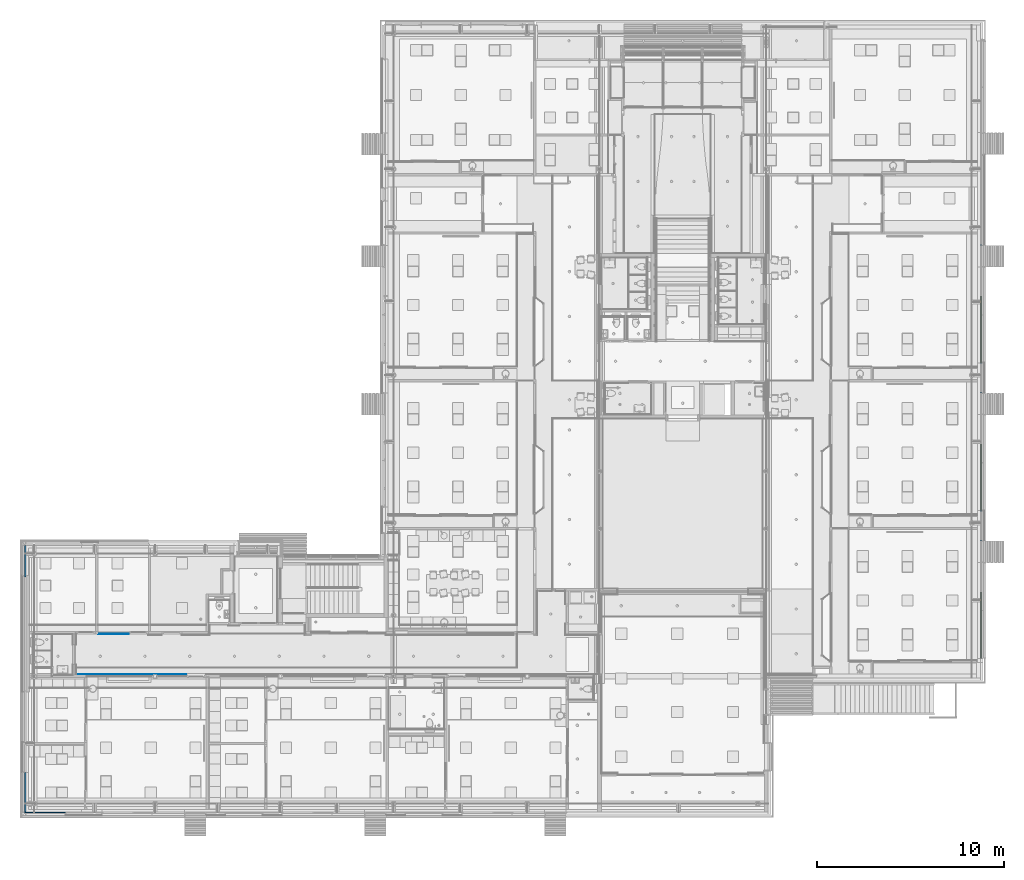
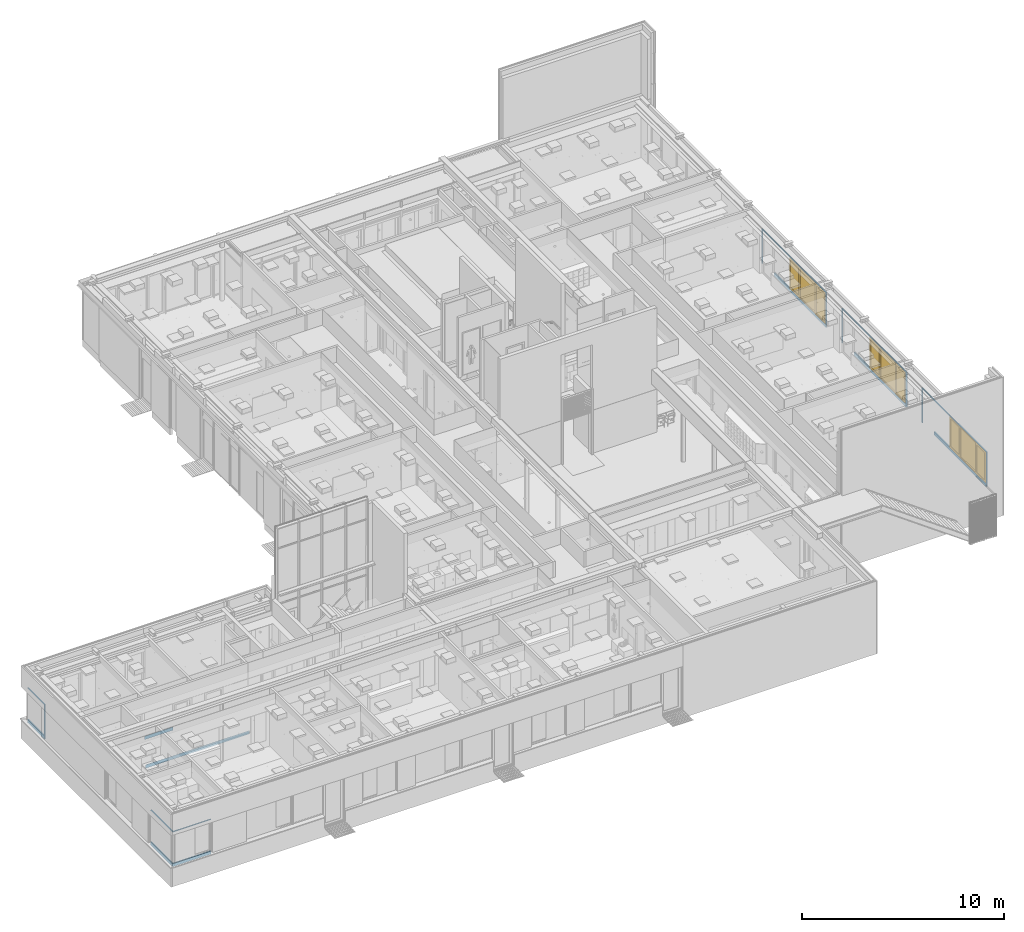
# One storey, part 5 of 347: 6 members, 3 windows, 2 beams, 9 openings.
"""IFC2X3 building model written with IfcOpenShell, lengths in millimetres."""

from ifc_helpers import new_model, entity, si_unit, converted_unit, derived_unit, money_unit, direction, frame, origin_with_axes, place, context, subcontext, project, spatial, open_shell, faceted_brep, surface_model, source, transform, mapped, material, type_object, type_shapes, element, fill, save


model = new_model("IFC2X3")

# Units and contexts
model_context = context("Model", 3, precision=0.01, world=origin_with_axes(), true_north=direction((0.0, 1.0)))
plan_context = context("Plan", 3, precision=0.01, world=origin_with_axes(), true_north=direction((0.0, 1.0)))
body_context = subcontext(model_context, "Body", "Model", "MODEL_VIEW")
ifc_project = project(units=[si_unit("LENGTHUNIT", "METRE", prefix="MILLI"), si_unit("AREAUNIT", "SQUARE_METRE"), si_unit("VOLUMEUNIT", "CUBIC_METRE"), converted_unit("PLANEANGLEUNIT", "DEGREE", entity("IfcPlaneAngleMeasure", 0.0174532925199), si_unit("PLANEANGLEUNIT", "RADIAN"), dimensions=[0, 0, 0, 0, 0, 0, 0]), money_unit("EUR"), converted_unit("TIMEUNIT", "Year", entity("IfcTimeMeasure", 31556926.0), si_unit("TIMEUNIT", "SECOND"), dimensions=[0, 0, 1, 0, 0, 0, 0]), si_unit("MASSUNIT", "GRAM", prefix="KILO"), si_unit("THERMODYNAMICTEMPERATUREUNIT", "DEGREE_CELSIUS"), si_unit("LUMINOUSINTENSITYUNIT", "LUMEN"), si_unit("ENERGYUNIT", "JOULE", prefix="MEGA"), derived_unit("THERMALCONDUCTANCEUNIT", [(si_unit("POWERUNIT", "WATT"), 1), (si_unit("LENGTHUNIT", "METRE"), -1), (si_unit("THERMODYNAMICTEMPERATUREUNIT", "KELVIN"), -1)]), derived_unit("SPECIFICHEATCAPACITYUNIT", [(si_unit("ENERGYUNIT", "JOULE"), 1), (si_unit("MASSUNIT", "GRAM", prefix="KILO"), -1), (si_unit("THERMODYNAMICTEMPERATUREUNIT", "KELVIN"), -1)]), derived_unit("MASSDENSITYUNIT", [(si_unit("MASSUNIT", "GRAM", prefix="KILO"), 1), (si_unit("VOLUMEUNIT", "CUBIC_METRE"), -1)])], contexts=[model_context, plan_context])

# Site, building, storey
site_placement = place(None, origin_with_axes())
site = spatial("IfcSite", under=ifc_project, at=site_placement, Name="Site", CompositionType="ELEMENT")
building_placement = place(site_placement, origin_with_axes())
building = spatial("IfcBuilding", under=site, at=building_placement, Name="Naam gebouw", CompositionType="ELEMENT")
storey_placement = place(building_placement, origin_with_axes())
storey = spatial("IfcBuildingStorey", under=building, at=storey_placement, Name="begane grond", CompositionType="ELEMENT", Elevation=0.0)

# Member, opening
ifc_material_1 = material(Name="31 pui/kozijn")
member_type = type_object("IfcMemberType", Name="31 pui/kozijn 62", PredefinedType="MEMBER")
member_1_placement = place(storey_placement, frame((4850.0, 19150.0, 535.00000231), z_axis=(0.0, 0.0, 1.0), x_axis=(0.0, -1.0, 0.0)))
member_1 = element("IfcMember", 1, at=member_1_placement, inside=storey, type_object=member_type, material=ifc_material_1, Name="21_31 buitenkozijn pui", ObjectType="MEMBER", context=body_context, shape_type="Brep", body=[
    faceted_brep([(1625.00000335, 0.0, 184.99999769), (1625.00000335, 0.0, 2064.99999769), (0.0, 0.0, 2064.99999769), (0.0, 0.0, 2100.0), (1687.00000335, 0.0, 2100.0), (1687.00000335, 0.0, 0.0), (0.0, 0.0, 0.0), (0.0, 0.0, 184.99999769), (1625.00000335, -62.0, 184.99999769), (1625.00000335, -62.0, 2064.99999769), (-1.49000811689e-07, -62.0, 2064.99999769), (-1.49000811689e-07, -62.0, 2100.0), (1687.00000335, -62.0, 2100.0), (1687.00000335, -62.0, 0.0), (-1.49000811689e-07, -62.0, 0.0), (-1.49000811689e-07, -62.0, 184.99999769)], [[[0, 1, 2, 3, 4, 5, 6, 7]], [[1, 0, 8, 9]], [[10, 2, 1, 9]], [[2, 10, 11, 3]], [[3, 11, 12, 4]], [[5, 4, 12, 13]], [[14, 6, 5, 13]], [[15, 7, 6, 14]], [[0, 7, 15, 8]], [[8, 15, 14, 13, 12, 11, 10, 9]]]),
])
opening_1_placement = place(member_1_placement, frame((812.500001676, 0.0, 184.99999769), z_axis=(0.0, 0.0, 1.0), x_axis=(1.0, 0.0, 0.0)))
element("IfcOpeningElement", 2, at=opening_1_placement, cuts=member_1, Name="31_merk-AH2", context=body_context, shape_type="Brep", body=[
    faceted_brep([(-874.500001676, -134.0, 0.0), (-874.500001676, -134.0, 1880.0), (-874.500001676, -61.999999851, 1880.0), (-874.500001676, -61.999999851, 0.0), (812.500001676, -134.0, 0.0), (812.500001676, -134.0, 1880.0), (812.500001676, 62.0, 1880.0), (-750.500001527, 62.0, 1880.0), (-750.500001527, 62.0, 0.0), (812.500001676, 62.0, 0.0)], [[[0, 1, 2, 3]], [[0, 4, 5, 1]], [[1, 5, 6, 7, 2]], [[7, 8, 3, 2]], [[4, 0, 3, 8, 9]], [[5, 4, 9, 6]], [[7, 6, 9, 8]]]),
])

member_2_placement = place(storey_placement, frame((4850.0, 4850.0, 535.00000231), z_axis=(0.0, 0.0, 1.0), x_axis=(1.0, 0.0, 0.0)))
member_2 = element("IfcMember", 3, at=member_2_placement, inside=storey, type_object=member_type, material=ifc_material_1, Name="21_31 buitenkozijn pui", ObjectType="MEMBER", context=body_context, shape_type="Brep", body=[
    faceted_brep([(0.0, 0.0, 184.99999769), (2138.0, 0.0, 184.99999769), (2138.0, 0.0, 0.0), (-62.0, 0.0, 0.0), (-62.0, 0.0, 184.99999769), (-62.0, -62.0, 184.99999769), (2138.0, -62.0, 184.99999769), (2138.0, -62.0, 0.0), (-62.0, -62.0, 0.0)], [[[0, 1, 2, 3, 4]], [[5, 6, 1, 0, 4]], [[1, 6, 7, 2]], [[8, 3, 2, 7]], [[5, 4, 3, 8]], [[6, 5, 8, 7]]]),
    faceted_brep([(2138.0, -62.0, 2064.99999769), (2138.0, 0.0, 2064.99999769), (2138.0, 0.0, 2100.0), (2138.0, -62.0, 2100.0), (0.0, 0.0, 2064.99999769), (-62.0, -62.0, 2064.99999769), (-62.0, 0.0, 2064.99999769), (-62.0, 0.0, 2100.0), (-62.0, -62.0, 2100.0)], [[[0, 1, 2, 3]], [[4, 1, 0, 5, 6]], [[1, 4, 6, 7, 2]], [[7, 8, 3, 2]], [[5, 0, 3, 8]], [[6, 5, 8, 7]]]),
])
opening_2_placement = place(member_2_placement, frame((1069.0, 0.0, 184.99999769), z_axis=(0.0, 0.0, 1.0), x_axis=(1.0, 0.0, 0.0)))
element("IfcOpeningElement", 4, at=opening_2_placement, cuts=member_2, Name="31_merk-AE2", context=body_context, shape_type="Brep", body=[
    faceted_brep([(1069.0, 62.0, 0.0), (1069.0, 62.0, 1880.0), (1069.0, -134.0, 1880.0), (1069.0, -134.0, 0.0), (-1007.0, 62.0, 0.0), (-1007.0, 62.0, 1880.0), (-1131.0, -62.0, 1880.0), (-1131.0, -134.0, 1880.0), (-1131.0, -134.0, 0.0), (-1131.0, -62.0, 0.0)], [[[0, 1, 2, 3]], [[0, 4, 5, 1]], [[1, 5, 6, 7, 2]], [[3, 2, 7, 8]], [[4, 0, 3, 8, 9]], [[5, 4, 9, 6]], [[9, 8, 7, 6]]]),
])

member_3_placement = place(storey_placement, frame((4850.0, 4850.0, 535.00000231), z_axis=(0.0, 0.0, 1.0), x_axis=(0.0, 1.0, 0.0)))
member_3 = element("IfcMember", 5, at=member_3_placement, inside=storey, type_object=member_type, material=ifc_material_1, Name="21_31 buitenkozijn pui", ObjectType="MEMBER", context=body_context, shape_type="Brep", body=[
    faceted_brep([(2125.00002887, 62.0, 184.99999769), (2125.00002887, 0.0, 184.99999769), (2125.00002887, 0.0, 0.0), (2125.00002887, 62.0, 0.0), (0.0, 0.0, 184.99999769), (0.0, 62.0, 184.99999769), (0.0, 0.0, 0.0), (0.0, 62.0, 0.0)], [[[0, 1, 2, 3]], [[4, 1, 0, 5]], [[1, 4, 6, 2]], [[6, 7, 3, 2]], [[5, 0, 3, 7]], [[4, 5, 7, 6]]]),
    faceted_brep([(0.0, 0.0, 2064.99999769), (2125.00002887, 0.0, 2064.99999769), (2125.00002887, 0.0, 2100.0), (0.0, 0.0, 2100.0), (2125.00002887, 62.0, 2064.99999769), (0.0, 62.0, 2064.99999769), (2125.00002887, 62.0, 2100.0), (0.0, 62.0, 2100.0)], [[[0, 1, 2, 3]], [[4, 1, 0, 5]], [[1, 4, 6, 2]], [[7, 3, 2, 6]], [[5, 0, 3, 7]], [[4, 5, 7, 6]]]),
])
opening_3_placement = place(member_3_placement, frame((1062.50001444, 0.0, 184.99999769), z_axis=(0.0, 0.0, 1.0), x_axis=(1.0, 0.0, 0.0)))
element("IfcOpeningElement", 6, at=opening_3_placement, cuts=member_3, Name="31_merk-AE1", context=body_context, shape_type="Brep", body=[
    faceted_brep([(-1124.50001444, 62.0, 1880.0), (-1124.50001444, 134.0, 1880.0), (-1124.50001444, 134.0, 0.0), (-1124.50001444, 62.0, 0.0), (-1000.50001444, -62.0, 1880.0), (1062.50001444, -62.0, 1880.0), (1062.50001444, 134.0, 1880.0), (1062.50001444, 134.0, 0.0), (1062.50001444, -62.0, 0.0), (-1000.50001444, -62.0, 0.0)], [[[0, 1, 2, 3]], [[4, 5, 6, 1, 0]], [[2, 1, 6, 7]], [[8, 9, 3, 2, 7]], [[4, 0, 3, 9]], [[9, 8, 5, 4]], [[5, 8, 7, 6]]]),
])

# Member, openings, window
member_4_placement = place(storey_placement, frame((56025.0, 19437.5, 535.00000231), z_axis=(0.0, 0.0, 1.0), x_axis=(5.01272690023e-09, -1.0, 0.0)))
member_4 = element("IfcMember", 7, at=member_4_placement, inside=storey, type_object=member_type, material=ifc_material_1, Name="21_31 buitenkozijn pui", ObjectType="MEMBER", context=body_context, shape_type="Brep", body=[
    faceted_brep([(50.0000003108, 61.9999997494, 2064.99999769), (50.0000003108, 61.9999997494, 0.0), (3.10791392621e-07, 62.0, 0.0), (3.10791392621e-07, 62.0, 2100.0), (6400.00000031, 61.9999679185, 2100.0), (6400.00000031, 61.9999679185, 0.0), (1227.00000031, 61.9999938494, 0.0), (1227.00000031, 61.9999938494, 184.99999769), (2775.00000031, 61.9999860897, 184.99999769), (6350.00000031, 61.9999681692, 184.99999769), (6350.00000031, 61.9999681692, 2064.99999769), (2775.00000031, 61.9999860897, 2064.99999769), (50.0, -2.50636844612e-07, 2064.99999769), (50.0, -2.50636844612e-07, 0.0), (0.0, 0.0, 0.0), (0.0, 0.0, 2100.0), (6400.0, -3.20814521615e-05, 2100.0), (6400.0, -3.20814521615e-05, 0.0), (1227.0, -6.15061424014e-06, 0.0), (1227.0, -6.15061424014e-06, 184.99999769), (2775.0, -1.39103164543e-05, 184.99999769), (6350.0, -3.18308153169e-05, 184.99999769), (6350.0, -3.18308153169e-05, 2064.99999769), (2775.0, -1.39103164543e-05, 2064.99999769)], [[[0, 1, 2, 3, 4, 5, 6, 7, 8, 9, 10, 11]], [[1, 0, 12, 13]], [[1, 13, 14, 2]], [[14, 15, 3, 2]], [[4, 3, 15, 16]], [[4, 16, 17, 5]], [[18, 6, 5, 17]], [[7, 6, 18, 19]], [[8, 7, 19, 20, 21, 9]], [[9, 21, 22, 10]], [[23, 12, 0, 11, 10, 22]], [[12, 23, 22, 21, 20, 19, 18, 17, 16, 15, 14, 13]]]),
])
opening_4_placement = place(member_4_placement, frame((4562.5, 0.0, 184.99999769), z_axis=(0.0, 0.0, 1.0), x_axis=(1.0, 0.0, 0.0)))
opening_4 = element("IfcOpeningElement", 8, at=opening_4_placement, cuts=member_4, Name="31_merk-AA1", context=body_context, shape_type="Brep", body=[
    faceted_brep([(1787.5, -3.18308124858e-05, 1880.0), (1787.5, -3.18308124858e-05, 0.0), (1787.50000036, 71.9999681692, 0.0), (1787.50000036, 71.9999681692, 1880.0), (-1787.5, -1.39103138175e-05, 1880.0), (-1787.5, -1.39103138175e-05, 0.0), (-1787.49999964, 71.9999860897, 0.0), (-1787.49999964, 71.9999860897, 1880.0)], [[[0, 1, 2, 3]], [[0, 4, 5, 1]], [[1, 5, 6, 2]], [[3, 2, 6, 7]], [[4, 0, 3, 7]], [[5, 4, 7, 6]]]),
    faceted_brep([(1787.50000036, 71.9999910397, 0.0), (1787.50000036, 71.9999910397, 1880.0), (1787.49999964, -72.0000089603, 1880.0), (1787.49999964, -72.0000089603, 0.0), (-1787.49999964, 72.0000089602, 0.0), (-1787.49999964, 72.0000089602, 1880.0), (-1787.50000036, -71.9999910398, 1880.0), (-1787.50000036, -71.9999910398, 0.0)], [[[0, 1, 2, 3]], [[0, 4, 5, 1]], [[1, 5, 6, 2]], [[3, 2, 6, 7]], [[4, 0, 3, 7]], [[5, 4, 7, 6]]]),
])
opening_5_placement = place(member_4_placement, frame((1412.5, 0.0, -575.00000231), z_axis=(0.0, 0.0, 1.0), x_axis=(1.0, 0.0, 0.0)))
element("IfcOpeningElement", 9, at=opening_5_placement, cuts=member_4, Name="32_merk-AA2", context=body_context, shape_type="Brep", body=[
    faceted_brep([(1362.50000067, 133.99999317, 760.000009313), (1362.50000067, 133.99999317, 2640.0), (1362.49999969, -62.0000068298, 2640.0), (1362.49999969, -62.0000068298, 760.000009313), (-185.500006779, 134.00000093, 760.000009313), (-185.500006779, 134.00000093, -7.45059994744e-07), (-1362.49999933, 134.00000683, -7.45059994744e-07), (-1362.49999933, 134.00000683, 2640.0), (-1362.50000031, -61.9999931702, 2640.0), (-1362.50000031, -61.9999931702, -7.45060006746e-07), (-185.500007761, -61.9999990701, -7.45060006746e-07), (-185.500007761, -61.9999990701, 760.000009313)], [[[0, 1, 2, 3]], [[0, 4, 5, 6, 7, 1]], [[1, 7, 8, 2]], [[3, 2, 8, 9, 10, 11]], [[4, 0, 3, 11]], [[5, 4, 11, 10]], [[6, 5, 10, 9]], [[7, 6, 9, 8]]]),
])
window_style = type_object("IfcWindowStyle", Name="Rnx horizontaal 25", ConstructionType="NOTDEFINED", OperationType="TRIPLE_PANEL_VERTICAL", ParameterTakesPrecedence=False, Sizeable=False)
shared_shape = source(origin_with_axes(), body_context, "Body", "SurfaceModel", [
    faceted_brep([(1763.5, 0.0, 1826.0), (1763.5, -62.0, 1826.0), (1748.5, -62.0, 1826.0), (1748.5, -72.0, 1826.0), (1787.5, -72.0, 1826.0), (1787.5, 0.0, 1826.0), (1763.5, 0.0, 54.0), (1763.5, -62.0, 54.0), (1748.5, -62.0, 54.0), (1748.5, -72.0, 54.0), (1787.5, -72.0, 54.0), (1787.5, 0.0, 54.0)], [[[0, 1, 2, 3, 4, 5]], [[1, 0, 6, 7]], [[8, 2, 1, 7]], [[2, 8, 9, 3]], [[4, 3, 9, 10]], [[5, 4, 10, 11]], [[6, 0, 5, 11]], [[7, 6, 11, 10, 9, 8]]]),
    faceted_brep([(-1733.5, -62.0, 1826.0), (-1748.5, -62.0, 1826.0), (-1748.5, 0.0, 1826.0), (-1787.5, 0.0, 1826.0), (-1787.5, -72.0, 1826.0), (-1733.5, -72.0, 1826.0), (-1733.5, -62.0, 54.0), (-1748.5, -62.0, 54.0), (-1748.5, 0.0, 54.0), (-1787.5, 0.0, 54.0), (-1787.5, -72.0, 54.0), (-1733.5, -72.0, 54.0)], [[[0, 1, 2, 3, 4, 5]], [[1, 0, 6, 7]], [[8, 2, 1, 7]], [[2, 8, 9, 3]], [[9, 10, 4, 3]], [[10, 11, 5, 4]], [[6, 0, 5, 11]], [[7, 6, 11, 10, 9, 8]]]),
    faceted_brep([(1763.5, 0.0, 1826.0), (1763.5, 0.0, 1841.0), (799.5, 0.0, 1841.0), (799.5, 0.0, 1826.0), (760.5, 0.0, 1826.0), (-760.5, 0.0, 1826.0), (-799.5, 0.0, 1826.0), (-799.5, 0.0, 1841.0), (-1748.5, 0.0, 1841.0), (-1748.5, 0.0, 1826.0), (-1787.5, 0.0, 1826.0), (-1787.5, 0.0, 1880.0), (1787.5, 0.0, 1880.0), (1787.5, 0.0, 1826.0), (1763.5, -62.0, 1826.0), (1763.5, -62.0, 1841.0), (799.5, -62.0, 1841.0), (799.5, -62.0, 1826.0), (814.5, -62.0, 1826.0), (814.5, -72.0, 1826.0), (760.5, -72.0, 1826.0), (-760.5, -72.0, 1826.0), (-799.5, -62.0, 1826.0), (-814.5, -72.0, 1826.0), (-814.5, -62.0, 1826.0), (-799.5, -62.0, 1841.0), (-1748.5, -62.0, 1841.0), (-1748.5, -62.0, 1826.0), (-1733.5, -62.0, 1826.0), (-1733.5, -72.0, 1826.0), (-1787.5, -72.0, 1826.0), (-1787.5, -72.0, 1880.0), (1787.5, -72.0, 1880.0), (1787.5, -72.0, 1826.0), (1748.5, -72.0, 1826.0), (1748.5, -62.0, 1826.0)], [[[0, 1, 2, 3, 4, 5, 6, 7, 8, 9, 10, 11, 12, 13]], [[1, 0, 14, 15]], [[2, 1, 15, 16]], [[3, 2, 16, 17]], [[17, 18, 19, 20, 4, 3]], [[4, 20, 21, 5]], [[22, 6, 5, 21, 23, 24]], [[7, 6, 22, 25]], [[8, 7, 25, 26]], [[9, 8, 26, 27]], [[27, 28, 29, 30, 10, 9]], [[10, 30, 31, 11]], [[11, 31, 32, 12]], [[12, 32, 33, 13]], [[14, 0, 13, 33, 34, 35]], [[18, 17, 16, 15, 14, 35]], [[18, 35, 34, 19]], [[30, 29, 23, 21, 20, 19, 34, 33, 32, 31]], [[28, 24, 23, 29]], [[28, 27, 26, 25, 22, 24]]]),
    faceted_brep([(814.5, -62.0, 54.0), (799.5, -62.0, 54.0), (799.5, 0.0, 54.0), (760.5, 0.0, 54.0), (760.5, -72.0, 54.0), (814.5, -72.0, 54.0), (1748.5, -62.0, 54.0), (1763.5, -62.0, 54.0), (1763.5, -62.0, 39.0), (799.5, -62.0, 39.0), (799.5, 0.0, 39.0), (1763.5, 0.0, 39.0), (1763.5, 0.0, 54.0), (1787.5, 0.0, 54.0), (1787.5, 0.0, 0.0), (-1787.5, 0.0, 0.0), (-1787.5, 0.0, 54.0), (-1748.5, 0.0, 54.0), (-1748.5, 0.0, 39.0), (-799.5, 0.0, 39.0), (-799.5, 0.0, 54.0), (-760.5, 0.0, 54.0), (-760.5, -72.0, 54.0), (-814.5, -72.0, 54.0), (-1733.5, -72.0, 54.0), (-1787.5, -72.0, 54.0), (-1787.5, -72.0, 0.0), (1787.5, -72.0, 0.0), (1787.5, -72.0, 54.0), (1748.5, -72.0, 54.0), (-1733.5, -62.0, 54.0), (-1748.5, -62.0, 54.0), (-1748.5, -62.0, 39.0), (-799.5, -62.0, 39.0), (-799.5, -62.0, 54.0), (-814.5, -62.0, 54.0)], [[[0, 1, 2, 3, 4, 5]], [[1, 0, 6, 7, 8, 9]], [[10, 2, 1, 9]], [[11, 12, 13, 14, 15, 16, 17, 18, 19, 20, 21, 3, 2, 10]], [[21, 22, 4, 3]], [[22, 23, 24, 25, 26, 27, 28, 29, 5, 4]], [[6, 0, 5, 29]], [[7, 6, 29, 28, 13, 12]], [[7, 12, 11, 8]], [[11, 10, 9, 8]], [[13, 28, 27, 14]], [[14, 27, 26, 15]], [[15, 26, 25, 16]], [[30, 31, 17, 16, 25, 24]], [[18, 17, 31, 32]], [[19, 18, 32, 33]], [[34, 20, 19, 33]], [[34, 35, 23, 22, 21, 20]], [[35, 30, 24, 23]], [[31, 30, 35, 34, 33, 32]]]),
    faceted_brep([(814.5, -62.0, 1826.0), (799.5, -62.0, 1826.0), (799.5, 0.0, 1826.0), (760.5, 0.0, 1826.0), (760.5, -72.0, 1826.0), (814.5, -72.0, 1826.0), (814.5, -62.0, 54.0), (799.5, -62.0, 54.0), (799.5, 0.0, 54.0), (760.5, 0.0, 54.0), (760.5, -72.0, 54.0), (814.5, -72.0, 54.0)], [[[0, 1, 2, 3, 4, 5]], [[1, 0, 6, 7]], [[8, 2, 1, 7]], [[2, 8, 9, 3]], [[9, 10, 4, 3]], [[4, 10, 11, 5]], [[6, 0, 5, 11]], [[7, 6, 11, 10, 9, 8]]]),
    faceted_brep([(-799.5, 0.0, 1826.0), (-799.5, -62.0, 1826.0), (-814.5, -62.0, 1826.0), (-814.5, -72.0, 1826.0), (-760.5, -72.0, 1826.0), (-760.5, 0.0, 1826.0), (-799.5, 0.0, 54.0), (-799.5, -62.0, 54.0), (-814.5, -62.0, 54.0), (-814.5, -72.0, 54.0), (-760.5, -72.0, 54.0), (-760.5, 0.0, 54.0)], [[[0, 1, 2, 3, 4, 5]], [[1, 0, 6, 7]], [[8, 2, 1, 7]], [[2, 8, 9, 3]], [[3, 9, 10, 4]], [[5, 4, 10, 11]], [[6, 0, 5, 11]], [[7, 6, 11, 10, 9, 8]]]),
    faceted_brep([(1695.5, -62.0, 1773.0), (1763.5, -62.0, 1773.0), (1763.5, 0.0, 1773.0), (1695.5, 0.0, 1773.0), (1695.5, -62.0, 107.0), (1763.5, -62.0, 107.0), (1763.5, 0.0, 107.0), (1695.5, 0.0, 107.0)], [[[0, 1, 2, 3]], [[0, 4, 5, 1]], [[1, 5, 6, 2]], [[3, 2, 6, 7]], [[4, 0, 3, 7]], [[5, 4, 7, 6]]]),
    faceted_brep([(867.5, -62.0, 107.0), (799.5, -62.0, 107.0), (799.5, 0.0, 107.0), (867.5, 0.0, 107.0), (867.5, -62.0, 1773.0), (799.5, -62.0, 1773.0), (799.5, 0.0, 1773.0), (867.5, 0.0, 1773.0)], [[[0, 1, 2, 3]], [[0, 4, 5, 1]], [[1, 5, 6, 2]], [[3, 2, 6, 7]], [[4, 0, 3, 7]], [[5, 4, 7, 6]]]),
    faceted_brep([(799.5, -62.0, 39.0), (799.5, -62.0, 107.0), (799.5, 0.0, 107.0), (799.5, 0.0, 39.0), (1763.5, -62.0, 39.0), (1763.5, -62.0, 107.0), (1695.5, -62.0, 107.0), (867.5, -62.0, 107.0), (867.5, 0.0, 107.0), (1695.5, 0.0, 107.0), (1763.5, 0.0, 107.0), (1763.5, 0.0, 39.0)], [[[0, 1, 2, 3]], [[0, 4, 5, 6, 7, 1]], [[1, 7, 8, 2]], [[3, 2, 8, 9, 10, 11]], [[4, 0, 3, 11]], [[5, 4, 11, 10]], [[6, 5, 10, 9]], [[7, 6, 9, 8]]]),
    faceted_brep([(1763.5, -62.0, 1841.0), (1763.5, -62.0, 1773.0), (1763.5, 0.0, 1773.0), (1763.5, 0.0, 1841.0), (799.5, -62.0, 1841.0), (799.5, -62.0, 1773.0), (867.5, -62.0, 1773.0), (1695.5, -62.0, 1773.0), (1695.5, 0.0, 1773.0), (867.5, 0.0, 1773.0), (799.5, 0.0, 1773.0), (799.5, 0.0, 1841.0)], [[[0, 1, 2, 3]], [[0, 4, 5, 6, 7, 1]], [[1, 7, 8, 2]], [[3, 2, 8, 9, 10, 11]], [[4, 0, 3, 11]], [[5, 4, 11, 10]], [[6, 5, 10, 9]], [[7, 6, 9, 8]]]),
    surface_model("IfcShellBasedSurfaceModel", [(1695.5, -41.0, 107.0), (1695.5, -41.0, 1773.0), (867.5, -41.0, 1773.0), (867.5, -41.0, 107.0)], [open_shell([[[0, 1, 2, 3]]])]),
    surface_model("IfcShellBasedSurfaceModel", [(1695.5, -21.0, 107.0), (867.5, -21.0, 107.0), (867.5, -21.0, 1773.0), (1695.5, -21.0, 1773.0)], [open_shell([[[0, 1, 2, 3]]])]),
    surface_model("IfcShellBasedSurfaceModel", [(760.5, -72.0, 54.0), (760.5, -72.0, 1826.0), (-760.5, -72.0, 1826.0), (-760.5, -72.0, 54.0)], [open_shell([[[0, 1, 2, 3]]])]),
    surface_model("IfcShellBasedSurfaceModel", [(760.5, -52.0, 54.0), (-760.5, -52.0, 54.0), (-760.5, -52.0, 1826.0), (760.5, -52.0, 1826.0)], [open_shell([[[0, 1, 2, 3]]])]),
    faceted_brep([(-867.5, -62.0, 1773.0), (-799.5, -62.0, 1773.0), (-799.5, 0.0, 1773.0), (-867.5, 0.0, 1773.0), (-867.5, -62.0, 107.0), (-799.5, -62.0, 107.0), (-799.5, 0.0, 107.0), (-867.5, 0.0, 107.0)], [[[0, 1, 2, 3]], [[0, 4, 5, 1]], [[1, 5, 6, 2]], [[3, 2, 6, 7]], [[4, 0, 3, 7]], [[5, 4, 7, 6]]]),
    faceted_brep([(-1680.5, -62.0, 107.0), (-1748.5, -62.0, 107.0), (-1748.5, 0.0, 107.0), (-1680.5, 0.0, 107.0), (-1680.5, -62.0, 1773.0), (-1748.5, -62.0, 1773.0), (-1748.5, 0.0, 1773.0), (-1680.5, 0.0, 1773.0)], [[[0, 1, 2, 3]], [[0, 4, 5, 1]], [[1, 5, 6, 2]], [[3, 2, 6, 7]], [[4, 0, 3, 7]], [[5, 4, 7, 6]]]),
    faceted_brep([(-1748.5, -62.0, 39.0), (-1748.5, -62.0, 107.0), (-1748.5, 0.0, 107.0), (-1748.5, 0.0, 39.0), (-799.5, -62.0, 39.0), (-799.5, -62.0, 107.0), (-867.5, -62.0, 107.0), (-1680.5, -62.0, 107.0), (-1680.5, 0.0, 107.0), (-867.5, 0.0, 107.0), (-799.5, 0.0, 107.0), (-799.5, 0.0, 39.0)], [[[0, 1, 2, 3]], [[0, 4, 5, 6, 7, 1]], [[1, 7, 8, 2]], [[3, 2, 8, 9, 10, 11]], [[4, 0, 3, 11]], [[5, 4, 11, 10]], [[6, 5, 10, 9]], [[7, 6, 9, 8]]]),
    faceted_brep([(-799.5, -62.0, 1841.0), (-799.5, -62.0, 1773.0), (-799.5, 0.0, 1773.0), (-799.5, 0.0, 1841.0), (-1748.5, -62.0, 1841.0), (-1748.5, -62.0, 1773.0), (-1680.5, -62.0, 1773.0), (-867.5, -62.0, 1773.0), (-867.5, 0.0, 1773.0), (-1680.5, 0.0, 1773.0), (-1748.5, 0.0, 1773.0), (-1748.5, 0.0, 1841.0)], [[[0, 1, 2, 3]], [[0, 4, 5, 6, 7, 1]], [[1, 7, 8, 2]], [[3, 2, 8, 9, 10, 11]], [[4, 0, 3, 11]], [[5, 4, 11, 10]], [[6, 5, 10, 9]], [[7, 6, 9, 8]]]),
    surface_model("IfcShellBasedSurfaceModel", [(-867.5, -41.0, 107.0), (-867.5, -41.0, 1773.0), (-1680.5, -41.0, 1773.0), (-1680.5, -41.0, 107.0)], [open_shell([[[0, 1, 2, 3]]])]),
    surface_model("IfcShellBasedSurfaceModel", [(-867.5, -21.0, 107.0), (-1680.5, -21.0, 107.0), (-1680.5, -21.0, 1773.0), (-867.5, -21.0, 1773.0)], [open_shell([[[0, 1, 2, 3]]])]),
])
type_shapes(window_style, [shared_shape])
window_1_placement = place(opening_4_placement, frame((1787.5, 0.0, 0.0), z_axis=(0.0, 0.0, 1.0), x_axis=(-1.0, 0.0, 0.0)))
window_1 = element("IfcWindow", 10, at=window_1_placement, inside=storey, type_object=window_style, Name="31_merk-AA1", ObjectType="WINDOW", OverallHeight=1880.0, OverallWidth=3575.0, context=body_context, shape_type="MappedRepresentation", body=[
    mapped(shared_shape, transform((1787.5, 2.28705658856e-05, 0.0))),
])
fill(opening_4, window_1)

member_5_placement = place(storey_placement, frame((56025.0, 35287.5, 535.00000231), z_axis=(0.0, 0.0, 1.0), x_axis=(-2.13369877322e-09, -1.0, 0.0)))
member_5 = element("IfcMember", 11, at=member_5_placement, inside=storey, type_object=member_type, material=ifc_material_1, Name="21_31 buitenkozijn pui", ObjectType="MEMBER", context=body_context, shape_type="Brep", body=[
    faceted_brep([(49.9999998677, 62.0000001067, 2064.99999769), (49.9999998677, 62.0000001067, 0.0), (-1.32288846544e-07, 62.0, 0.0), (-1.32288846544e-07, 62.0, 2100.0), (6399.99999987, 62.0000136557, 2100.0), (6399.99999987, 62.0000136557, 0.0), (1226.99999987, 62.000002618, 0.0), (1226.99999987, 62.000002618, 184.99999769), (2774.99999987, 62.000005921, 184.99999769), (6349.99999987, 62.000013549, 184.99999769), (6349.99999987, 62.000013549, 2064.99999769), (2774.99999987, 62.000005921, 2064.99999769), (50.0, 1.06687991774e-07, 2064.99999769), (50.0, 1.06687991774e-07, 0.0), (0.0, 0.0, 0.0), (0.0, 0.0, 2100.0), (6400.0, 1.36556721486e-05, 2100.0), (6400.0, 1.36556721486e-05, 0.0), (1227.0, 2.61805155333e-06, 0.0), (1227.0, 2.61805155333e-06, 184.99999769), (2775.0, 5.92101656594e-06, 184.99999769), (6350.0, 1.35489841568e-05, 184.99999769), (6350.0, 1.35489841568e-05, 2064.99999769), (2775.0, 5.92101656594e-06, 2064.99999769)], [[[0, 1, 2, 3, 4, 5, 6, 7, 8, 9, 10, 11]], [[1, 0, 12, 13]], [[1, 13, 14, 2]], [[14, 15, 3, 2]], [[4, 3, 15, 16]], [[4, 16, 17, 5]], [[18, 6, 5, 17]], [[7, 6, 18, 19]], [[8, 7, 19, 20, 21, 9]], [[9, 21, 22, 10]], [[23, 12, 0, 11, 10, 22]], [[12, 23, 22, 21, 20, 19, 18, 17, 16, 15, 14, 13]]]),
])
opening_6_placement = place(member_5_placement, frame((4562.5, 0.0, 184.99999769), z_axis=(0.0, 0.0, 1.0), x_axis=(1.0, 0.0, 0.0)))
opening_6 = element("IfcOpeningElement", 12, at=opening_6_placement, cuts=member_5, Name="31_merk-AA1", context=body_context, shape_type="Brep", body=[
    faceted_brep([(1787.5, 1.35489932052e-05, 1880.0), (1787.5, 1.35489932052e-05, 0.0), (1787.49999985, 72.000013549, 0.0), (1787.49999985, 72.000013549, 1880.0), (-1787.5, 5.92102009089e-06, 1880.0), (-1787.5, 5.92102009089e-06, 0.0), (-1787.50000015, 72.000005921, 0.0), (-1787.50000015, 72.000005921, 1880.0)], [[[0, 1, 2, 3]], [[0, 4, 5, 1]], [[1, 5, 6, 2]], [[3, 2, 6, 7]], [[4, 0, 3, 7]], [[5, 4, 7, 6]]]),
    faceted_brep([(1787.49999985, 72.000003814, 0.0), (1787.49999985, 72.000003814, 1880.0), (1787.50000015, -71.999996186, 1880.0), (1787.50000015, -71.999996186, 0.0), (-1787.50000015, 71.999996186, 0.0), (-1787.50000015, 71.999996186, 1880.0), (-1787.49999985, -72.000003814, 1880.0), (-1787.49999985, -72.000003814, 0.0)], [[[0, 1, 2, 3]], [[0, 4, 5, 1]], [[1, 5, 6, 2]], [[3, 2, 6, 7]], [[4, 0, 3, 7]], [[5, 4, 7, 6]]]),
])
opening_7_placement = place(member_5_placement, frame((1412.5, 0.0, -575.00000231), z_axis=(0.0, 0.0, 1.0), x_axis=(1.0, 0.0, 0.0)))
element("IfcOpeningElement", 13, at=opening_7_placement, cuts=member_5, Name="32_merk-AA2", context=body_context, shape_type="Brep", body=[
    faceted_brep([(1362.49999971, 134.000002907, 760.000009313), (1362.49999971, 134.000002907, 2640.0), (1362.50000013, -61.9999970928, 2640.0), (1362.50000013, -61.9999970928, 760.000009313), (-185.500007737, 133.999999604, 760.000009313), (-185.500007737, 133.999999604, -7.45052889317e-07), (-1362.50000029, 133.999997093, -7.45052889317e-07), (-1362.50000029, 133.999997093, 2640.0), (-1362.49999987, -62.0000029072, 2640.0), (-1362.49999987, -62.0000029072, -7.45052901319e-07), (-185.500007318, -62.0000003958, -7.45052901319e-07), (-185.500007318, -62.0000003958, 760.000009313)], [[[0, 1, 2, 3]], [[0, 4, 5, 6, 7, 1]], [[1, 7, 8, 2]], [[3, 2, 8, 9, 10, 11]], [[4, 0, 3, 11]], [[5, 4, 11, 10]], [[6, 5, 10, 9]], [[7, 6, 9, 8]]]),
])
window_2_placement = place(opening_6_placement, frame((1787.5, 0.0, 0.0), z_axis=(0.0, 0.0, 1.0), x_axis=(-1.0, 0.0, 0.0)))
window_2 = element("IfcWindow", 14, at=window_2_placement, inside=storey, type_object=window_style, Name="31_merk-AA1", ObjectType="WINDOW", OverallHeight=1880.0, OverallWidth=3575.0, context=body_context, shape_type="MappedRepresentation", body=[
    mapped(shared_shape, transform((1787.5, -9.73501101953e-06, 0.0))),
])
fill(opening_6, window_2)

member_6_placement = place(storey_placement, frame((56025.0, 27362.5, 535.00000231), z_axis=(0.0, 0.0, 1.0), x_axis=(0.0, -1.0, 0.0)))
member_6 = element("IfcMember", 15, at=member_6_placement, inside=storey, type_object=member_type, material=ifc_material_1, Name="21_31 buitenkozijn pui", ObjectType="MEMBER", context=body_context, shape_type="Brep", body=[
    faceted_brep([(50.0, 62.0, 2064.99999769), (50.0, 62.0, 0.0), (0.0, 62.0, 0.0), (0.0, 62.0, 2100.0), (6400.0, 62.0, 2100.0), (6400.0, 62.0, 0.0), (1227.0, 62.0, 0.0), (1227.0, 62.0, 184.99999769), (2775.0, 62.0, 184.99999769), (6350.0, 62.0, 184.99999769), (6350.0, 62.0, 2064.99999769), (2775.0, 62.0, 2064.99999769), (50.0, 0.0, 2064.99999769), (50.0, 0.0, 0.0), (0.0, 0.0, 0.0), (0.0, 0.0, 2100.0), (6400.0, 0.0, 2100.0), (6400.0, 0.0, 0.0), (1227.0, 0.0, 0.0), (1227.0, 0.0, 184.99999769), (2775.0, 0.0, 184.99999769), (6350.0, 0.0, 184.99999769), (6350.0, 0.0, 2064.99999769), (2775.0, 0.0, 2064.99999769)], [[[0, 1, 2, 3, 4, 5, 6, 7, 8, 9, 10, 11]], [[1, 0, 12, 13]], [[1, 13, 14, 2]], [[14, 15, 3, 2]], [[4, 3, 15, 16]], [[4, 16, 17, 5]], [[18, 6, 5, 17]], [[7, 6, 18, 19]], [[8, 7, 19, 20, 21, 9]], [[9, 21, 22, 10]], [[23, 12, 0, 11, 10, 22]], [[12, 23, 22, 21, 20, 19, 18, 17, 16, 15, 14, 13]]]),
])
opening_8_placement = place(member_6_placement, frame((4562.5, 0.0, 184.99999769), z_axis=(0.0, 0.0, 1.0), x_axis=(1.0, 0.0, 0.0)))
opening_8 = element("IfcOpeningElement", 16, at=opening_8_placement, cuts=member_6, Name="31_merk-AA1", context=body_context, shape_type="Brep", body=[
    faceted_brep([(1787.5, 0.0, 1880.0), (1787.5, 0.0, 0.0), (1787.5, 72.0, 0.0), (1787.5, 72.0, 1880.0), (-1787.5, 0.0, 1880.0), (-1787.5, 0.0, 0.0), (-1787.5, 72.0, 0.0), (-1787.5, 72.0, 1880.0)], [[[0, 1, 2, 3]], [[0, 4, 5, 1]], [[1, 5, 6, 2]], [[3, 2, 6, 7]], [[4, 0, 3, 7]], [[5, 4, 7, 6]]]),
    faceted_brep([(1787.5, 72.0, 0.0), (1787.5, 72.0, 1880.0), (1787.5, -72.0, 1880.0), (1787.5, -72.0, 0.0), (-1787.5, 72.0, 0.0), (-1787.5, 72.0, 1880.0), (-1787.5, -72.0, 1880.0), (-1787.5, -72.0, 0.0)], [[[0, 1, 2, 3]], [[0, 4, 5, 1]], [[1, 5, 6, 2]], [[3, 2, 6, 7]], [[4, 0, 3, 7]], [[5, 4, 7, 6]]]),
])
opening_9_placement = place(member_6_placement, frame((1412.5, 0.0, -575.00000231), z_axis=(0.0, 0.0, 1.0), x_axis=(1.0, 0.0, 0.0)))
element("IfcOpeningElement", 17, at=opening_9_placement, cuts=member_6, Name="32_merk-AA2", context=body_context, shape_type="Brep", body=[
    faceted_brep([(1362.5, 134.0, 760.000009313), (1362.5, 134.0, 2640.0), (1362.5, -62.0, 2640.0), (1362.5, -62.0, 760.000009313), (-185.500007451, 134.0, 760.000009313), (-185.500007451, 134.0, -7.45059994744e-07), (-1362.5, 134.0, -7.45059994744e-07), (-1362.5, 134.0, 2640.0), (-1362.5, -62.0, 2640.0), (-1362.5, -62.0, -7.45060006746e-07), (-185.500007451, -62.0, -7.45060006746e-07), (-185.500007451, -62.0, 760.000009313)], [[[0, 1, 2, 3]], [[0, 4, 5, 6, 7, 1]], [[1, 7, 8, 2]], [[3, 2, 8, 9, 10, 11]], [[4, 0, 3, 11]], [[5, 4, 11, 10]], [[6, 5, 10, 9]], [[7, 6, 9, 8]]]),
])
window_3_placement = place(opening_8_placement, frame((1787.5, 0.0, 0.0), z_axis=(0.0, 0.0, 1.0), x_axis=(-1.0, 0.0, 0.0)))
window_3 = element("IfcWindow", 18, at=window_3_placement, inside=storey, type_object=window_style, Name="31_merk-AA1", ObjectType="WINDOW", OverallHeight=1880.0, OverallWidth=3575.0, context=body_context, shape_type="MappedRepresentation", body=[
    mapped(shared_shape, transform((1787.5, 0.0, 0.0))),
])
fill(opening_8, window_3)

# Beams
ifc_material_2 = material(Name="Glas geleiding strook")
beam_type = type_object("IfcBeamType", Name="42 geleiding strook 20 x 200", PredefinedType="BEAM")
beam_1_placement = place(storey_placement, frame((13461.0, 12187.5, 0.0), z_axis=(0.0, 0.0, 1.0), x_axis=(0.0, 1.0, 0.0)))
element("IfcBeam", 19, at=beam_1_placement, inside=storey, type_object=beam_type, material=ifc_material_2, Name="28_Balk-x", ObjectType="BEAM", context=body_context, shape_type="Brep", body=[
    faceted_brep([(40.0, 5921.0, 1200.0), (40.0, 5921.0, 1000.0), (40.0, 0.0, 1000.0), (40.0, 0.0, 1200.0), (60.0, 5901.0, 1200.0), (60.0, 5901.0, 1000.0), (60.0, 0.0, 1000.0), (60.0, 0.0, 1200.0)], [[[0, 1, 2, 3]], [[0, 4, 5, 1]], [[1, 5, 6, 2]], [[3, 2, 6, 7]], [[4, 0, 3, 7]], [[5, 4, 7, 6]]]),
])
beam_2_placement = place(storey_placement, frame((8732.0, 14450.0, 0.0), z_axis=(0.0, 0.0, 1.0), x_axis=(0.0, -1.0, 0.0)))
element("IfcBeam", 20, at=beam_2_placement, inside=storey, type_object=beam_type, material=ifc_material_2, Name="28_Balk-x", ObjectType="BEAM", context=body_context, shape_type="Brep", body=[
    faceted_brep([(40.0, 1629.0, 1200.0), (40.0, 1629.0, 1000.0), (40.0, 0.0, 1000.0), (40.0, 0.0, 1200.0), (60.0, 1629.0, 1200.0), (60.0, 1629.0, 1000.0), (60.0, 0.0, 1000.0), (60.0, 0.0, 1200.0)], [[[0, 1, 2, 3]], [[0, 4, 5, 1]], [[1, 5, 6, 2]], [[3, 2, 6, 7]], [[4, 0, 3, 7]], [[5, 4, 7, 6]]]),
])

save(model, "model.ifc")
